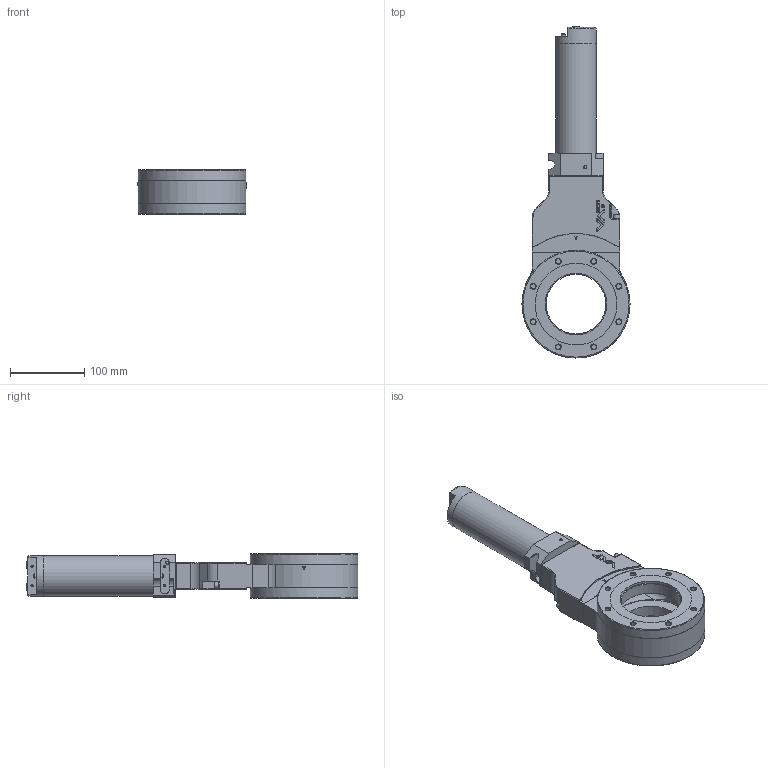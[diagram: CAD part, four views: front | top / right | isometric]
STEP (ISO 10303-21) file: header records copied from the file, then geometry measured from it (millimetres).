
FILE_DESCRIPTION(/* description */ (''),/* implementation_level */ '2;1');
FILE_NAME(/* name */ '1782746764_203.stp',/* time_stamp */ '2011-02-10T17:12:24+01:00',/* author */ (''),/* organization */ (''),/* preprocessor_version */ 'ST-DEVELOPER v11',/* originating_system */ 'SIEMENS UGS NX 6.0',/* authorisation */ '');
FILE_SCHEMA (('CONFIG_CONTROL_DESIGN'));
Length unit declared in the file: millimetre
Products named in the file (25): 92838-01_3.2; 80477-01.1; N-7100-005_2.1; 92838-01_4.2; 92838-01_2.2; 92838-01_1.2; 80478-01.1; N-6195-007.2; 93115-01.1; 87105-01.1; n-6121-027.2; 251093.3; 253879.3; n-6134-407; 253882.4; 224795.1; 247750.1; 251289.1; 252391.1; N-7108-010_2.1; 313018.1; 251094.1; 87090-R1.22_NX-ARRAGMNTUNBETÃ¤TIGT; 251092.4; 264178.16
Assembly tree (31 placements, depth 3):
  264178.16
    251092.4
      251093.3
      n-6121-027.2  x2
    251094.1
    313018.1  x2
    87090-R1.22_NX-ARRAGMNTUNBETÃ¤TIGT  x2
      87105-01.1
      93115-01.1
      N-6195-007.2
      80478-01.1
      92838-01_1.2
      92838-01_2.2
      92838-01_4.2
      N-7100-005_2.1
      80477-01.1
      92838-01_3.2
    N-7108-010_2.1  x2
    252391.1
    251289.1
    247750.1  x2
    224795.1  x2
    253882.4
    n-6134-407  x2
    253879.3
Bounding box: 145.6 x 447.45 x 60 mm (x, y, z)
Volume: 1095954.5 mm3; surface area: 252437.7 mm2
Topology: 46 solids, 47 shells, 1223 faces, 2851 edges, 1812 vertices
Faces by surface type: plane 580, cylinder 357, torus 97, cone 90, bspline 56, extrusion 37, sphere 6
Full cylindrical faces by diameter (mm): 1.875 x2, 2.475 x6, 2.5 x6, 2.56 x2, 2.575 x2, 3.3 x2, 4.16 x4, 4.2 x15, 4.3 x2, 4.7 x4, 5 x8, 5.1 x3, 5.3 x2, 5.5 x4, 5.6 x2, 5.65 x2, 5.7 x2, 5.8 x4, 6.2 x2, 6.5 x1, 6.511 x2, 6.8 x18, 6.98 x2, 7.008 x2, 8 x2, 8.024 x2, 8.075 x2, 8.125 x6, 8.5 x4, 9 x4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
Entity records: 43328 total; most frequent: CARTESIAN_POINT 16945, DIRECTION 4802, ORIENTED_EDGE 4526, EDGE_CURVE 2263, AXIS2_PLACEMENT_3D 1865, VERTEX_POINT 1576, EDGE_LOOP 1437, VECTOR 1072
